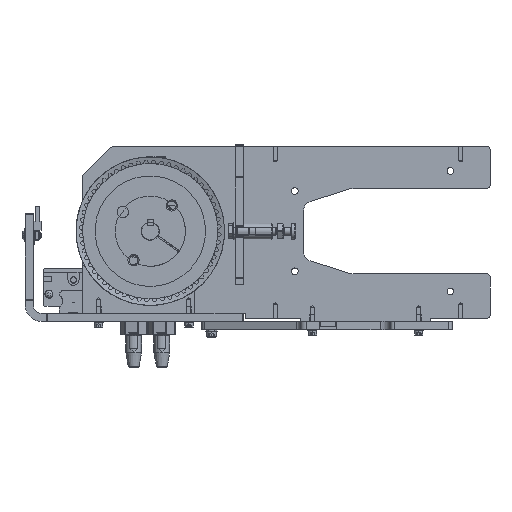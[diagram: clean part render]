
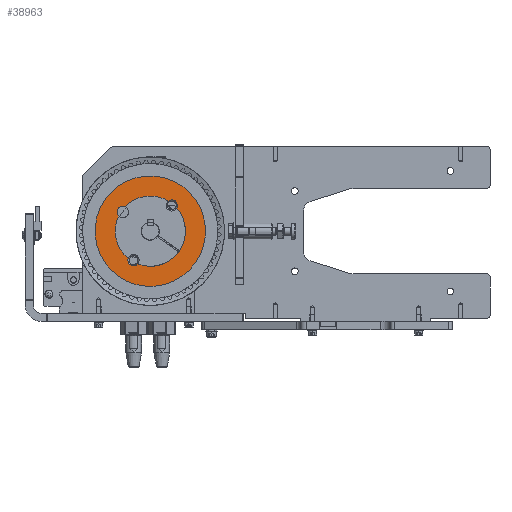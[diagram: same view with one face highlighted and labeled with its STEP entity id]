
A CAD part, left-side view. The second image highlights one B-rep face of the part: STEP entity #38963.
In plain terms, the highlighted planar face has unit normal (-1, 0, 0).
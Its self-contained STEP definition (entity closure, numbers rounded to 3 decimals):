
#2235=FACE_BOUND('',#8979,.T.);
#3269=CIRCLE('',#41704,55.);
#3446=CIRCLE('',#41887,34.99);
#3448=CIRCLE('',#41889,34.99);
#3617=CIRCLE('',#42060,5.75);
#3619=CIRCLE('',#42063,5.557);
#3622=CIRCLE('',#42068,34.99);
#3624=CIRCLE('',#42071,5.557);
#4601=PLANE('',#42077);
#6262=FACE_OUTER_BOUND('',#8978,.T.);
#8978=EDGE_LOOP('',(#30669));
#8979=EDGE_LOOP('',(#30670,#30671,#30672,#30673,#30674,#30675));
#18754=VERTEX_POINT('',#60598);
#18989=VERTEX_POINT('',#62032);
#18990=VERTEX_POINT('',#62040);
#18993=VERTEX_POINT('',#62051);
#18994=VERTEX_POINT('',#62058);
#19220=VERTEX_POINT('',#63481);
#19223=VERTEX_POINT('',#63504);
#22986=EDGE_CURVE('',#18754,#18754,#3269,.T.);
#23221=EDGE_CURVE('',#18989,#18990,#3446,.T.);
#23225=EDGE_CURVE('',#18993,#18994,#3448,.T.);
#23452=EDGE_CURVE('',#18993,#18990,#3617,.T.);
#23454=EDGE_CURVE('',#18989,#19220,#3619,.T.);
#23459=EDGE_CURVE('',#19223,#19220,#3622,.T.);
#23463=EDGE_CURVE('',#19223,#18994,#3624,.T.);
#30669=ORIENTED_EDGE('',*,*,#22986,.T.);
#30670=ORIENTED_EDGE('',*,*,#23463,.T.);
#30671=ORIENTED_EDGE('',*,*,#23225,.F.);
#30672=ORIENTED_EDGE('',*,*,#23452,.T.);
#30673=ORIENTED_EDGE('',*,*,#23221,.F.);
#30674=ORIENTED_EDGE('',*,*,#23454,.T.);
#30675=ORIENTED_EDGE('',*,*,#23459,.F.);
#38963=ADVANCED_FACE('',(#6262,#2235),#4601,.T.);
#41704=AXIS2_PLACEMENT_3D('',#60599,#47944,#47945);
#41887=AXIS2_PLACEMENT_3D('',#62041,#48310,#48311);
#41889=AXIS2_PLACEMENT_3D('',#62059,#48314,#48315);
#42060=AXIS2_PLACEMENT_3D('',#63478,#48656,#48657);
#42063=AXIS2_PLACEMENT_3D('',#63482,#48662,#48663);
#42068=AXIS2_PLACEMENT_3D('',#63505,#48672,#48673);
#42071=AXIS2_PLACEMENT_3D('',#63525,#48678,#48679);
#42077=AXIS2_PLACEMENT_3D('',#63531,#48690,#48691);
#47944=DIRECTION('center_axis',(-1.,0.,0.));
#47945=DIRECTION('ref_axis',(0.,1.,0.));
#48310=DIRECTION('center_axis',(-1.,0.,0.));
#48311=DIRECTION('ref_axis',(0.,1.,0.));
#48314=DIRECTION('center_axis',(-1.,0.,0.));
#48315=DIRECTION('ref_axis',(0.,1.,0.));
#48656=DIRECTION('center_axis',(1.,0.,0.));
#48657=DIRECTION('ref_axis',(0.,1.,0.));
#48662=DIRECTION('center_axis',(1.,0.,0.));
#48663=DIRECTION('ref_axis',(0.,-0.087,0.996));
#48672=DIRECTION('center_axis',(-1.,0.,0.));
#48673=DIRECTION('ref_axis',(0.,1.,0.));
#48678=DIRECTION('center_axis',(1.,0.,0.));
#48679=DIRECTION('ref_axis',(0.,-0.087,-0.996));
#48690=DIRECTION('center_axis',(-1.,0.,0.));
#48691=DIRECTION('ref_axis',(0.,1.,0.));
#60598=CARTESIAN_POINT('',(0.,-55.,0.));
#60599=CARTESIAN_POINT('Origin',(0.,0.,0.));
#62032=CARTESIAN_POINT('',(0.,2.403,34.907));
#62040=CARTESIAN_POINT('',(0.,34.532,5.64));
#62041=CARTESIAN_POINT('Origin',(0.,0.,0.));
#62051=CARTESIAN_POINT('',(0.,34.532,-5.64));
#62058=CARTESIAN_POINT('',(0.,2.403,-34.907));
#62059=CARTESIAN_POINT('Origin',(0.,0.,0.));
#63478=CARTESIAN_POINT('Origin',(0.,33.415,0.));
#63481=CARTESIAN_POINT('',(0.,-8.428,33.96));
#63482=CARTESIAN_POINT('Origin',(0.,-2.912,33.288));
#63504=CARTESIAN_POINT('',(0.,-8.428,-33.96));
#63505=CARTESIAN_POINT('Origin',(0.,0.,0.));
#63525=CARTESIAN_POINT('Origin',(0.,-2.912,-33.288));
#63531=CARTESIAN_POINT('Origin',(0.,44.995,0.));
